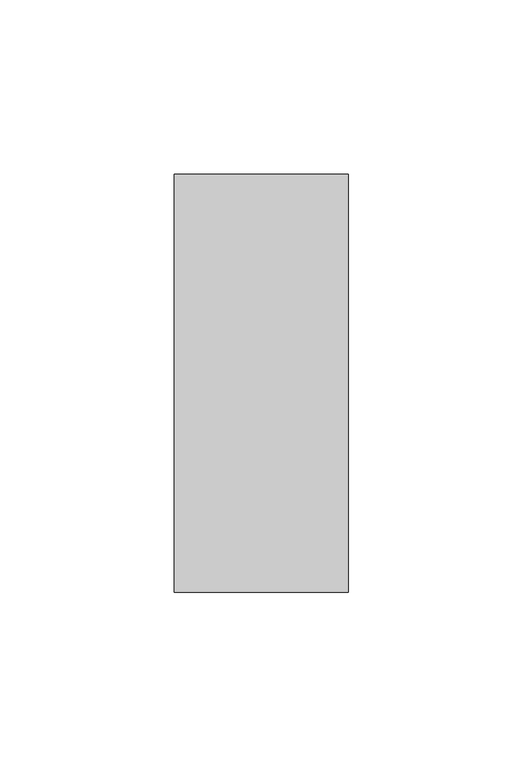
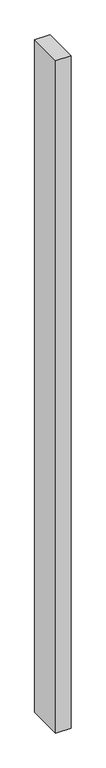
"""IFC4 building model written with IfcOpenShell, lengths in millimetres: member geometry, Прямоугольный импост : 50х120 мм."""

from ifc_helpers import new_model, si_unit, frame, origin, place, context, project, spatial, polyline, outline, extrude, source, transform, mapped, element, save


def member_051b1cdf(model_context):
    return source(origin(), model_context, "Body", "SweptSolid", [
        extrude(outline(polyline([(0.0, 60.0), (0.0, -60.0), (-50.0, -60.0), (-50.0, 60.0), (0.0, 60.0)])), frame((0.0, 0.0, -2340.0), z_axis=(0.0, 0.0, 1.0), x_axis=(1.0, 0.0, 0.0)), (0.0, 0.0, 1.0), 2340.0),
    ])


if __name__ == "__main__":
    model = new_model("IFC4")
    model_context = context("Model", 3, world=origin())
    ifc_project = project(units=[si_unit("LENGTHUNIT", "METRE", prefix="MILLI")], contexts=[model_context])
    site = spatial("IfcSite", under=ifc_project)
    building = spatial("IfcBuilding", under=site)
    placement = place(None, origin())
    member_shape = member_051b1cdf(model_context)
    element("IfcMember", 1, ObjectType="Прямоугольный импост : 50х120 мм", at=placement, inside=building, context=model_context, shape_type="MappedRepresentation", body=[
        mapped(member_shape, transform((0.0, 0.0, 0.0), x_axis=(1.0, 0.0, 0.0), y_axis=(0.0, 1.0, 0.0), z_axis=(0.0, 0.0, 1.0))),
    ])
    save(model, "model.ifc")
